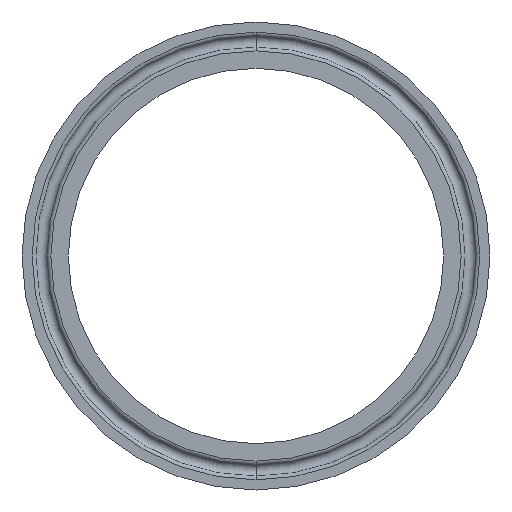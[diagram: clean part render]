
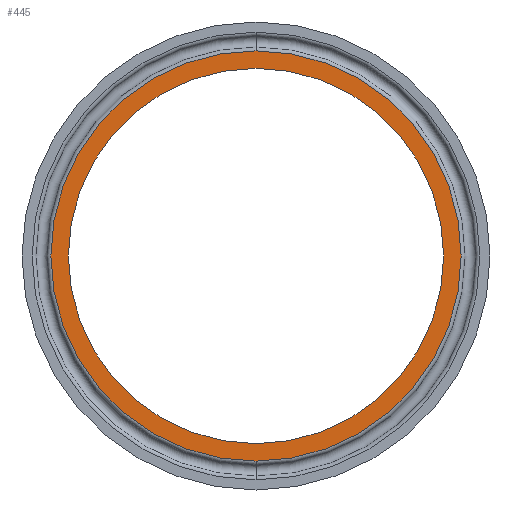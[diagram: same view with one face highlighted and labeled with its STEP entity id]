
A CAD part, front view. The second image highlights one B-rep face of the part: STEP entity #445.
In plain terms, the highlighted planar face has unit normal (0, -1, 0).
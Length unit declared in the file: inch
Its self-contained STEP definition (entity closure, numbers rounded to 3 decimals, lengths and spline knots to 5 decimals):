
#20 = CARTESIAN_POINT ( 'NONE',  ( 0., 0., 0. ) ) ;
#27 = DIRECTION ( 'NONE',  ( 0., -1., 0. ) ) ;
#41 = PLANE ( 'NONE',  #352 ) ;
#46 = VERTEX_POINT ( 'NONE', #83 ) ;
#53 = CARTESIAN_POINT ( 'NONE',  ( 0., 0., 0. ) ) ;
#61 = DIRECTION ( 'NONE',  ( 0., 0., -1. ) ) ;
#79 = ORIENTED_EDGE ( 'NONE', *, *, #493, .F. ) ;
#83 = CARTESIAN_POINT ( 'NONE',  ( 0., 0., 1.56892 ) ) ;
#96 = DIRECTION ( 'NONE',  ( 0., 0., -1. ) ) ;
#128 = DIRECTION ( 'NONE',  ( 0., 1., 0. ) ) ;
#138 = ORIENTED_EDGE ( 'NONE', *, *, #506, .T. ) ;
#139 = CARTESIAN_POINT ( 'NONE',  ( 0., 0., 1.435 ) ) ;
#146 = CIRCLE ( 'NONE', #414, 1.435 ) ;
#161 = EDGE_LOOP ( 'NONE', ( #265, #79 ) ) ;
#169 = CIRCLE ( 'NONE', #303, 1.435 ) ;
#174 = EDGE_CURVE ( 'NONE', #248, #491, #146, .T. ) ;
#182 = EDGE_CURVE ( 'NONE', #46, #202, #341, .T. ) ;
#202 = VERTEX_POINT ( 'NONE', #374 ) ;
#210 = CARTESIAN_POINT ( 'NONE',  ( 0., 0., 0. ) ) ;
#217 = FACE_OUTER_BOUND ( 'NONE', #284, .T. ) ;
#247 = DIRECTION ( 'NONE',  ( 0., 0., -1. ) ) ;
#248 = VERTEX_POINT ( 'NONE', #511 ) ;
#261 = CARTESIAN_POINT ( 'NONE',  ( 0., 0., 0. ) ) ;
#265 = ORIENTED_EDGE ( 'NONE', *, *, #174, .F. ) ;
#284 = EDGE_LOOP ( 'NONE', ( #138, #363 ) ) ;
#289 = AXIS2_PLACEMENT_3D ( 'NONE', #210, #514, #247 ) ;
#294 = DIRECTION ( 'NONE',  ( 0., -1., 0. ) ) ;
#303 = AXIS2_PLACEMENT_3D ( 'NONE', #20, #294, #61 ) ;
#309 = DIRECTION ( 'NONE',  ( 0., 0., -1. ) ) ;
#329 = DIRECTION ( 'NONE',  ( 0., -1., 0. ) ) ;
#331 = FACE_BOUND ( 'NONE', #161, .T. ) ;
#341 = CIRCLE ( 'NONE', #403, 1.56892 ) ;
#352 = AXIS2_PLACEMENT_3D ( 'NONE', #361, #128, #409 ) ;
#361 = CARTESIAN_POINT ( 'NONE',  ( 0., 0., 0. ) ) ;
#363 = ORIENTED_EDGE ( 'NONE', *, *, #182, .T. ) ;
#374 = CARTESIAN_POINT ( 'NONE',  ( 0., 0., -1.56892 ) ) ;
#403 = AXIS2_PLACEMENT_3D ( 'NONE', #261, #27, #309 ) ;
#409 = DIRECTION ( 'NONE',  ( 0., 0., 1. ) ) ;
#414 = AXIS2_PLACEMENT_3D ( 'NONE', #53, #329, #96 ) ;
#445 = ADVANCED_FACE ( 'NONE', ( #331, #217 ), #41, .F. ) ;
#491 = VERTEX_POINT ( 'NONE', #139 ) ;
#493 = EDGE_CURVE ( 'NONE', #491, #248, #169, .T. ) ;
#506 = EDGE_CURVE ( 'NONE', #202, #46, #537, .T. ) ;
#511 = CARTESIAN_POINT ( 'NONE',  ( 0., 0., -1.435 ) ) ;
#514 = DIRECTION ( 'NONE',  ( 0., -1., 0. ) ) ;
#537 = CIRCLE ( 'NONE', #289, 1.56892 ) ;
